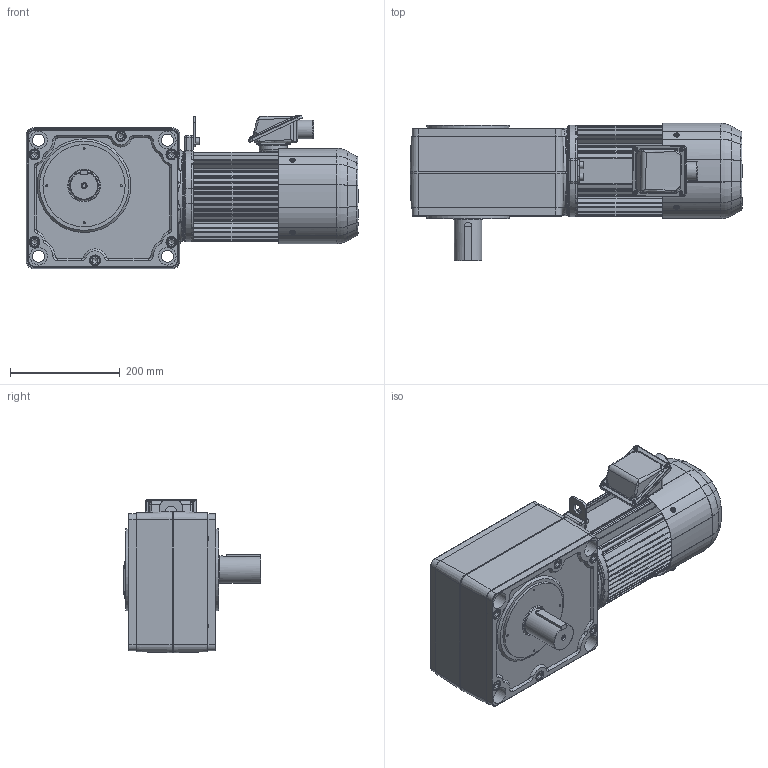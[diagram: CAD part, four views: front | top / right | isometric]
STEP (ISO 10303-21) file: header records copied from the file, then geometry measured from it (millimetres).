
FILE_DESCRIPTION( ( 'Unknown' ), '1' );
FILE_NAME( 'W:/gm/3D-WEB/GV-SHY/完成品/パーツ/完成品/完成品(GV-SHY_ﾌﾗﾝｼﾞ取付_2.2kW_ﾌﾞﾚｰｷ付き_E).stp', 'Unknown', ( 'Unknown' ), ( 'Unknown' ), 'PSStep 11.0', 'Unknown', ' ' );
FILE_SCHEMA( ( 'AUTOMOTIVE_DESIGN { 1 0 10303 214 1 1 1 1 }' ) );
Length unit declared in the file: millimetre
Products named in the file (6): 六角穴付ボルト(
Bounding box: 606 x 251.24 x 280.82 mm (x, y, z)
Volume: 14279991.2 mm3; surface area: 1134457 mm2
Topology: 6 solids, 40 shells, 2005 faces, 4918 edges, 3112 vertices
Faces by surface type: plane 852, cylinder 789, cone 140, torus 110, bspline 106, sphere 8
Full cylindrical faces by diameter (mm): 3.6 x8, 3.8 x8, 4 x2, 4.2 x8, 4.5 x4, 4.917 x8, 5.5 x4, 5.8 x4, 6 x12, 6.8 x1, 7 x8, 8 x12, 8.2 x1, 8.376 x16, 10 x12, 11 x4, 12 x6, 13 x2, 14 x6, 16 x4, 18 x6, 20 x7, 22 x5, 23 x1, 24.117 x2, 25 x2, 26.3 x1, 32 x8, 34 x1, 48 x2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
Entity records: 82177 total; most frequent: CARTESIAN_POINT 19519, DIRECTION 10230, ORIENTED_EDGE 9076, EDGE_CURVE 4538, AXIS2_PLACEMENT_3D 4028, VERTEX_POINT 3033, EDGE_LOOP 2455, FACE_OUTER_BOUND 2224
